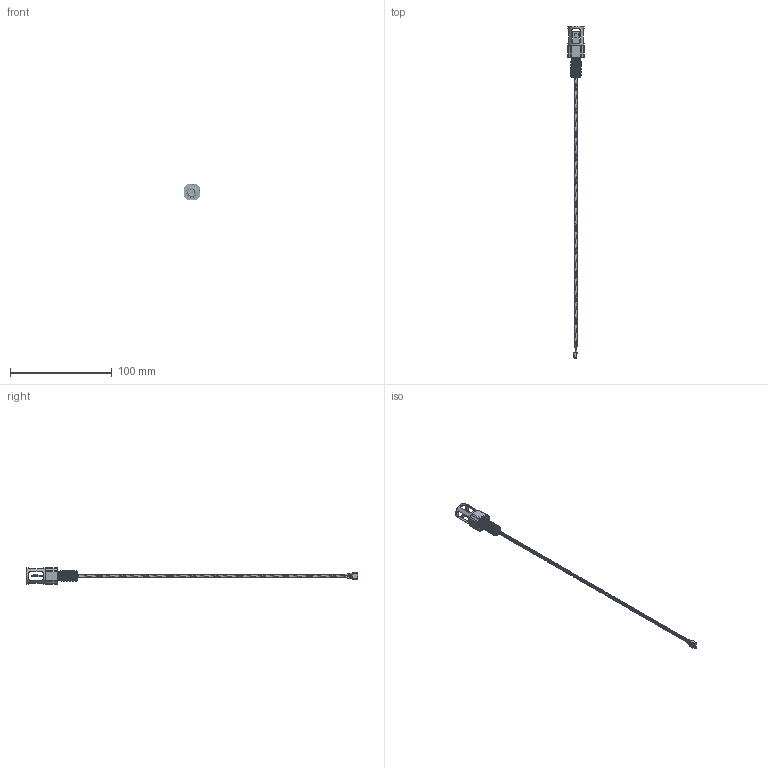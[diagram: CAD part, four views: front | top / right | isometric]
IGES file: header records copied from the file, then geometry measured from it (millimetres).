
Start section: SolidWorks IGES file using analytic representation for surfaces
Global section: file name: C:\Users\brian\Blue Robotics Dropbox\Brian Hoover\BR-Engineering\PROJECTS\CELSIUS\RELEASE\PUBLIC\CELSIUS-SENSOR-R2.IGS; native system: SolidWorks 2022; preprocessor: SolidWorks 2022; author: brian; date: 220606.213545; units: millimetre
Bounding box: 16 x 326.65 x 16 mm (x, y, z)
Surface area: 11808 mm2 (no closed solid volume)
Topology: 0 solids, 0 shells, 274 faces, 3320 edges, 3320 vertices
Faces by surface type: bspline 159, revolution 115
